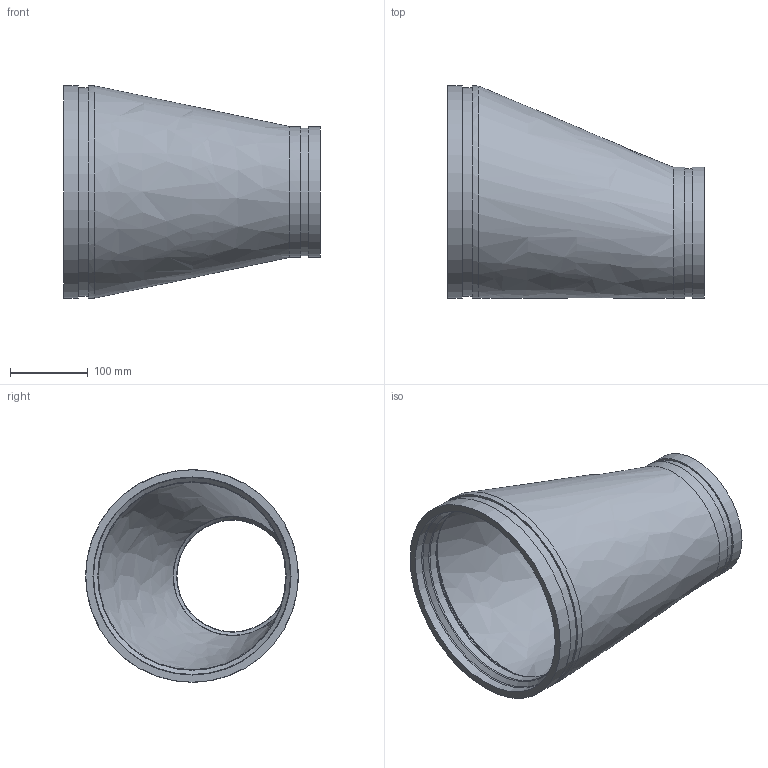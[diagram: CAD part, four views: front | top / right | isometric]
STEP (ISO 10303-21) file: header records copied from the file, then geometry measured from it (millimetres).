
FILE_DESCRIPTION(/* description */ ('VIC REDUCER ECCENTRIC No 451H-SS','CAx-IF Rec.Pracs.---Representation and Presentation of Product Manufacturing Information (PMI)---4.0---2014-10-13'),/* implementation_level */ '2;1');
FILE_NAME(/* name */ 'C:\Users\kkamble\AppData\Roaming\Autodesk\ApplicationPlugins\Back Up\Victaulic_SS-OGS_Reducer Eccentric_Sched 40S_No 451H SS (OGS)\Victaulic_SS-OGS_Reducer Eccentric_Sched 40S_No 451H SS (OGS)_10.0x06.0 (250x150).stp',/* time_stamp */ '2020-08-25T18:06:10+06:00',/* author */ ('CORINNE GRAY'),/* organization */ ('Victaulic'),/* preprocessor_version */ 'ST-DEVELOPER v17.2',/* originating_system */ 'Autodesk Inventor 2019',/* authorisation */ '');
FILE_SCHEMA (('AP242_MANAGED_MODEL_BASED_3D_ENGINEERING_MIM_LF { 1 0 10303 442 1 1 4 }'));
Length unit declared in the file: inch
Products named in the file (1): 451H SS-10.0x06.0
Bounding box: 330.2 x 273.05 x 273.05 mm (x, y, z)
Volume: 1955816.7 mm3; surface area: 472992.7 mm2
Topology: 1 solids, 1 shells, 32 faces, 111 edges, 85 vertices
Faces by surface type: cylinder 12, torus 8, plane 6, cone 4, bspline 2
Full cylindrical faces by diameter (mm): 143.383 x1, 153.67 x2, 163.957 x1, 168.275 x2, 240.741 x1, 254.508 x2, 268.275 x1, 273.05 x2
Entity records: 1504 total; most frequent: DIRECTION 290, CARTESIAN_POINT 282, ORIENTED_EDGE 222, AXIS2_PLACEMENT_3D 137, EDGE_CURVE 111, CIRCLE 93, VERTEX_POINT 85, EDGE_LOOP 38
